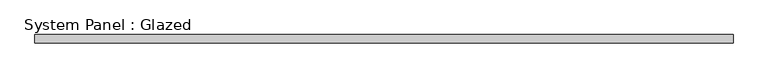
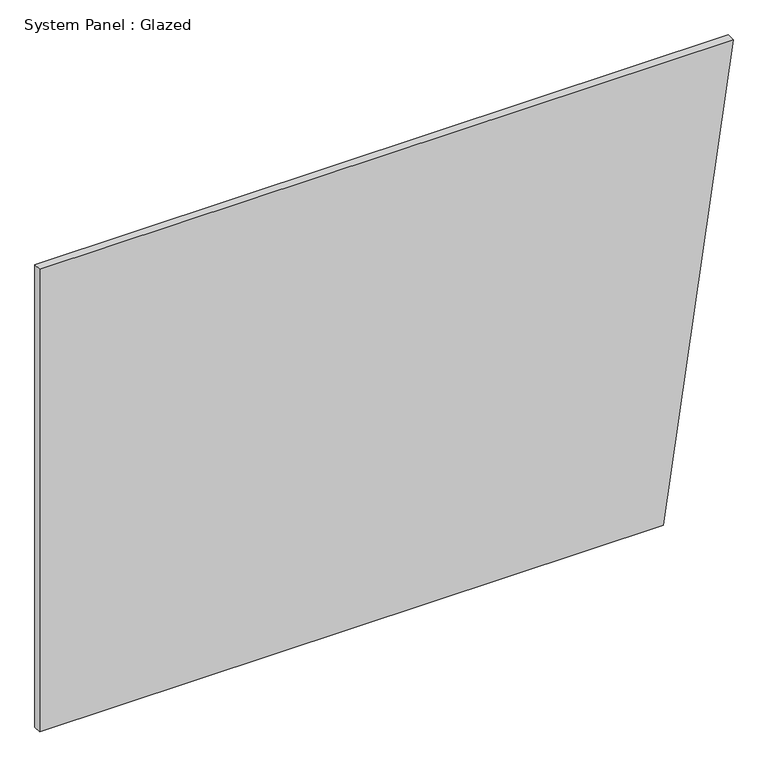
"""IFC4 building model written with IfcOpenShell, lengths in millimetres: plate geometry, System Panel : Glazed."""

from ifc_helpers import new_model, si_unit, frame, origin, place, context, project, spatial, polyline, outline, extrude, source, transform, mapped, element, save


def system_panel_glazed_5791ef04(model_context):
    return source(origin(), model_context, "Body", "SweptSolid", [
        extrude(outline(polyline([(0.0, -1080.5442611), (0.0, 863.498906), (1524.0, 1080.5442611), (1524.0, -1080.5442611), (0.0, -1080.5442611)])), frame((0.0, 19.05, 0.0), z_axis=(0.0, 1.0, 0.0), x_axis=(0.0, 0.0, 1.0)), (0.0, 0.0, 1.0), 25.4),
    ])


if __name__ == "__main__":
    model = new_model("IFC4")
    model_context = context("Model", 3, world=origin())
    ifc_project = project(units=[si_unit("LENGTHUNIT", "METRE", prefix="MILLI")], contexts=[model_context])
    site = spatial("IfcSite", under=ifc_project)
    building = spatial("IfcBuilding", under=site)
    placement = place(None, origin())
    system_panel_glazed_shape = system_panel_glazed_5791ef04(model_context)
    element("IfcPlate", 1, ObjectType="System Panel : Glazed", at=placement, inside=building, context=model_context, shape_type="MappedRepresentation", body=[
        mapped(system_panel_glazed_shape, transform((0.0, 0.0, 0.0), x_axis=(1.0, 0.0, 0.0), y_axis=(0.0, 1.0, 0.0), z_axis=(0.0, 0.0, 1.0))),
    ])
    save(model, "model.ifc")
